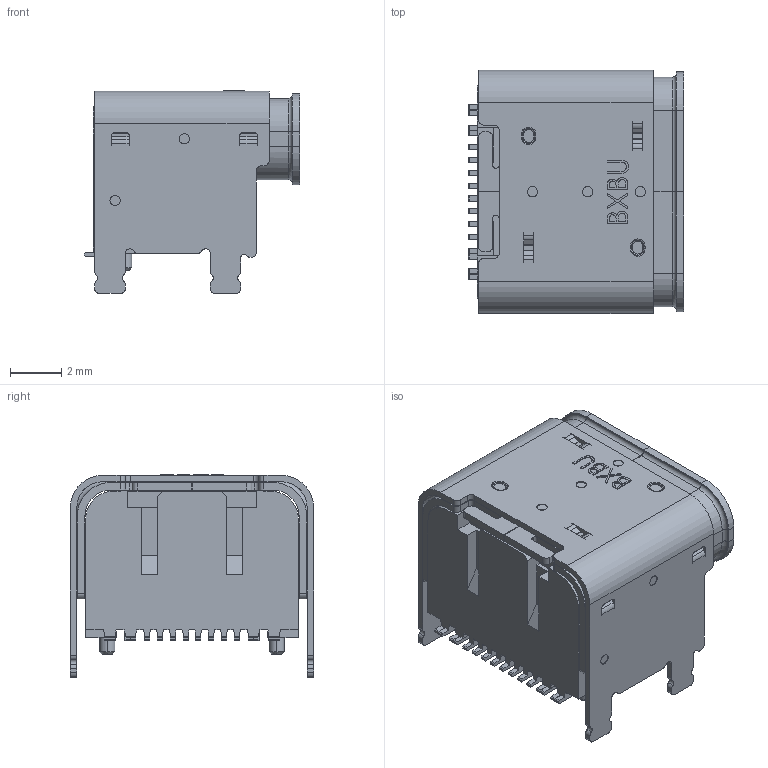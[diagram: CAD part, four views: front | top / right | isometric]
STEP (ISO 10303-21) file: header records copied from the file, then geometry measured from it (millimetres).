
FILE_DESCRIPTION (( 'STEP AP214' ), '1' );
FILE_NAME ('U5100-16PNQ3.0G8.0L.STEP', '2026-05-19T09:11:31', ( '' ), ( '' ), 'SwSTEP 2.0', 'SolidWorks 2024', '' );
FILE_SCHEMA (( 'AUTOMOTIVE_DESIGN' ));
Length unit declared in the file: millimetre
Products named in the file (1): U5100-16PNQ3.0G8.0L
Bounding box: 8.41 x 9.47 x 7.9 mm (x, y, z)
Volume: 211.7 mm3; surface area: 897.9 mm2
Topology: 1 solids, 1 shells, 1066 faces, 3151 edges, 2072 vertices
Faces by surface type: plane 669, cylinder 332, torus 32, bspline 25, cone 8
Entity records: 36964 total; most frequent: CARTESIAN_POINT 8009, ORIENTED_EDGE 6302, DIRECTION 5849, EDGE_CURVE 3151, LINE 2321, VECTOR 2321, VERTEX_POINT 2072, AXIS2_PLACEMENT_3D 1764
